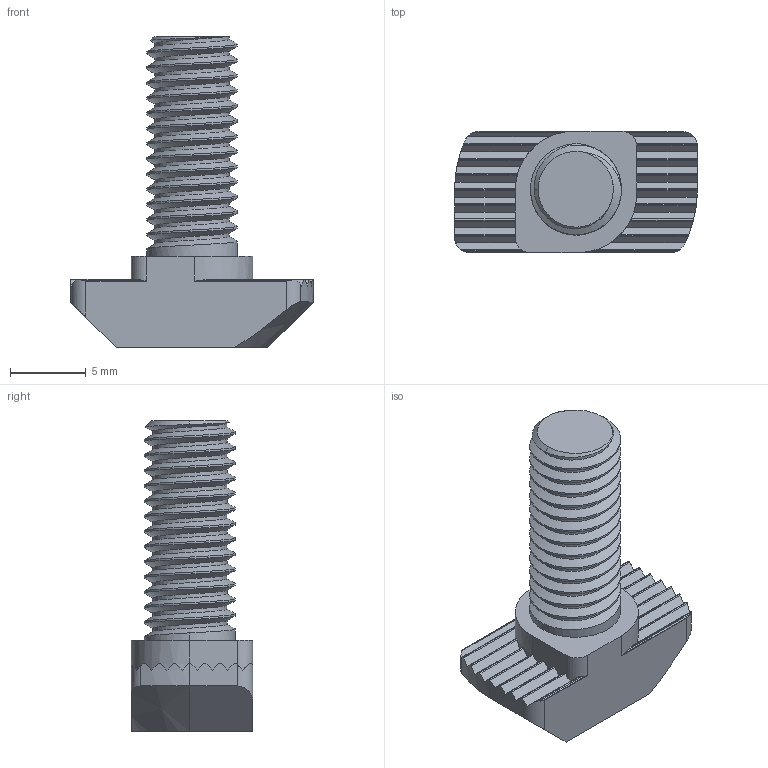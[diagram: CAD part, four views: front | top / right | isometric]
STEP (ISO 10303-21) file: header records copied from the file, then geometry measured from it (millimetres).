
FILE_DESCRIPTION (( 'STEP AP203' ), '1' );
FILE_NAME ('999317_Hammerschraube M6x16.step', '2022-10-13T06:01:51', ( '' ), ( '' ), 'SwSTEP 2.0', 'SolidWorks 2021', '' );
FILE_SCHEMA (( 'CONFIG_CONTROL_DESIGN' ));
Length unit declared in the file: millimetre
Products named in the file (1): 999317_Hammerschraube M6x16
Bounding box: 16 x 8 x 20.5 mm (x, y, z)
Volume: 894.2 mm3; surface area: 858.7 mm2
Topology: 1 solids, 1 shells, 130 faces, 372 edges, 245 vertices
Faces by surface type: cylinder 77, plane 46, cone 4, bspline 3
Entity records: 6681 total; most frequent: CARTESIAN_POINT 3622, ORIENTED_EDGE 744, DIRECTION 498, EDGE_CURVE 372, VERTEX_POINT 245, LINE 166, VECTOR 166, AXIS2_PLACEMENT_3D 166
